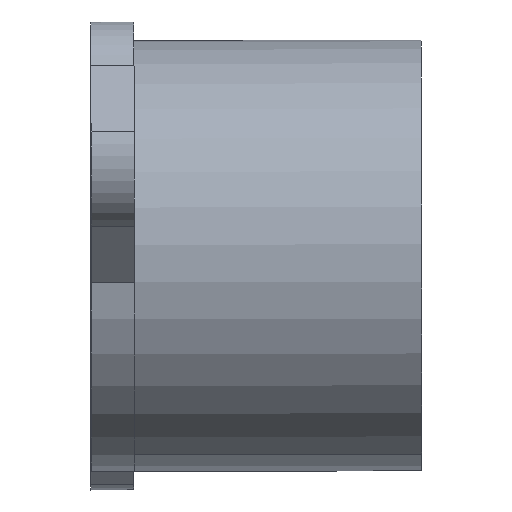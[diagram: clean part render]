
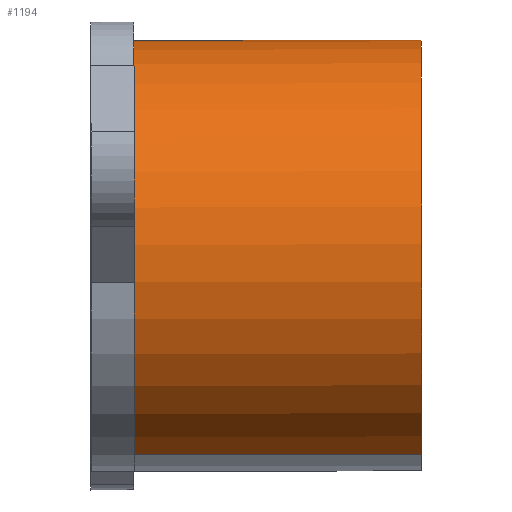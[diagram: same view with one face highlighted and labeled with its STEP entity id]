
A CAD part, top view. The second image highlights one B-rep face of the part: STEP entity #1194.
In plain terms, the highlighted cylindrical face has radius 15 mm (diameter 30 mm), a partial arc.
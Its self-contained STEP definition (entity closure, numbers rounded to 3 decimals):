
#11 = EDGE_CURVE ( 'NONE', #1296, #1370, #1312, .T. ) ;
#90 = EDGE_CURVE ( 'NONE', #477, #603, #206, .T. ) ;
#117 = ORIENTED_EDGE ( 'NONE', *, *, #90, .T. ) ;
#206 = CIRCLE ( 'NONE', #1039, 15. ) ;
#237 = CARTESIAN_POINT ( 'NONE',  ( 0., -5., -15. ) ) ;
#309 = DIRECTION ( 'NONE',  ( 0., 1., 0. ) ) ;
#327 = LINE ( 'NONE', #1329, #1217 ) ;
#425 = CARTESIAN_POINT ( 'NONE',  ( 0., -5., 0. ) ) ;
#477 = VERTEX_POINT ( 'NONE', #727 ) ;
#498 = DIRECTION ( 'NONE',  ( 0., 1., 0. ) ) ;
#504 = EDGE_CURVE ( 'NONE', #477, #1296, #327, .T. ) ;
#603 = VERTEX_POINT ( 'NONE', #857 ) ;
#722 = ORIENTED_EDGE ( 'NONE', *, *, #11, .F. ) ;
#727 = CARTESIAN_POINT ( 'NONE',  ( 0., -5., 15. ) ) ;
#762 = CARTESIAN_POINT ( 'NONE',  ( 0., 15., 0. ) ) ;
#817 = DIRECTION ( 'NONE',  ( 0., 1., 0. ) ) ;
#852 = ORIENTED_EDGE ( 'NONE', *, *, #504, .F. ) ;
#857 = CARTESIAN_POINT ( 'NONE',  ( 0., -5., -15. ) ) ;
#892 = ORIENTED_EDGE ( 'NONE', *, *, #1354, .T. ) ;
#903 = DIRECTION ( 'NONE',  ( 0., 0., 1. ) ) ;
#919 = DIRECTION ( 'NONE',  ( 0., 0., 1. ) ) ;
#992 = LINE ( 'NONE', #237, #1196 ) ;
#1012 = DIRECTION ( 'NONE',  ( 0., 1., 0. ) ) ;
#1039 = AXIS2_PLACEMENT_3D ( 'NONE', #425, #1012, #1238 ) ;
#1053 = CARTESIAN_POINT ( 'NONE',  ( 0., 15., -15. ) ) ;
#1070 = CYLINDRICAL_SURFACE ( 'NONE', #1492, 15. ) ;
#1170 = CARTESIAN_POINT ( 'NONE',  ( 0., 15., 15. ) ) ;
#1194 = ADVANCED_FACE ( 'NONE', ( #1415 ), #1070, .T. ) ;
#1196 = VECTOR ( 'NONE', #817, 1000. ) ;
#1217 = VECTOR ( 'NONE', #498, 1000. ) ;
#1238 = DIRECTION ( 'NONE',  ( 0., 0., 1. ) ) ;
#1296 = VERTEX_POINT ( 'NONE', #1170 ) ;
#1312 = CIRCLE ( 'NONE', #1317, 15. ) ;
#1317 = AXIS2_PLACEMENT_3D ( 'NONE', #762, #309, #903 ) ;
#1329 = CARTESIAN_POINT ( 'NONE',  ( 0., -5., 15. ) ) ;
#1348 = EDGE_LOOP ( 'NONE', ( #117, #892, #722, #852 ) ) ;
#1354 = EDGE_CURVE ( 'NONE', #603, #1370, #992, .T. ) ;
#1370 = VERTEX_POINT ( 'NONE', #1053 ) ;
#1376 = DIRECTION ( 'NONE',  ( 0., 1., 0. ) ) ;
#1415 = FACE_OUTER_BOUND ( 'NONE', #1348, .T. ) ;
#1492 = AXIS2_PLACEMENT_3D ( 'NONE', #1500, #1376, #919 ) ;
#1500 = CARTESIAN_POINT ( 'NONE',  ( 0., -5., 0. ) ) ;
